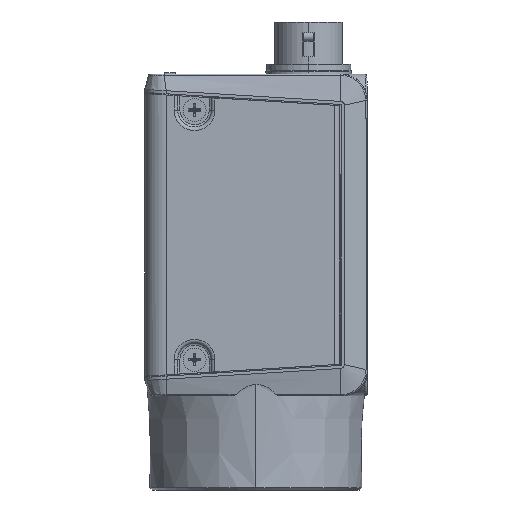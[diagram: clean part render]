
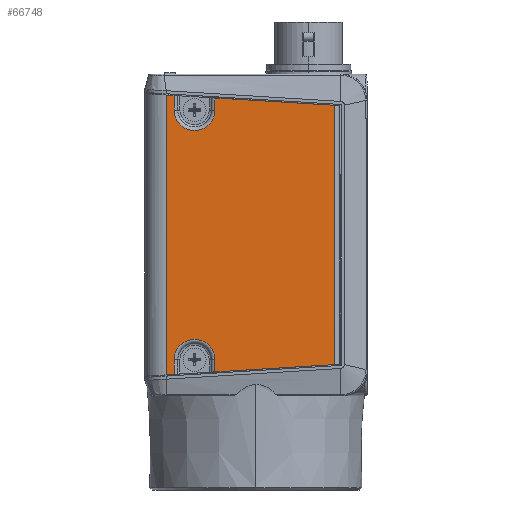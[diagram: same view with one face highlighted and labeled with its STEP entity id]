
A CAD part, left-side view. The second image highlights one B-rep face of the part: STEP entity #66748.
In plain terms, the highlighted planar face has unit normal (-1, 0, 0).
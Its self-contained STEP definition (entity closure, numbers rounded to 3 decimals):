
#9358=DIRECTION('',(0.,0.,1.));
#9359=VECTOR('',#9358,1.906);
#9360=CARTESIAN_POINT('',(-14.5,10.67,46.8));
#9361=LINE('',#9360,#9359);
#9483=DIRECTION('',(0.,0.,-1.));
#9484=VECTOR('',#9483,1.579);
#9485=CARTESIAN_POINT('',(-14.5,5.33,48.379));
#9486=LINE('',#9485,#9484);
#9507=CARTESIAN_POINT('',(-14.5,5.33,48.379));
#9613=CARTESIAN_POINT('',(-14.5,10.67,48.706));
#9795=CARTESIAN_POINT('',(-14.5,5.33,12.621));
#24074=CARTESIAN_POINT('',(-14.5,11.7,
48.769));
#24079=DIRECTION('',(0.,0.,-1.));
#24080=VECTOR('',#24079,36.537);
#24081=CARTESIAN_POINT('',(-14.5,11.7,
48.769));
#24082=LINE('',#24081,#24080);
#24086=CARTESIAN_POINT('',(-14.5,11.7,
12.231));
#24108=CARTESIAN_POINT('',(-14.5,8.,14.2));
#24109=DIRECTION('',(-1.,0.,0.));
#24110=DIRECTION('',(0.,-1.,0.));
#24111=AXIS2_PLACEMENT_3D('',#24108,#24109,#24110);
#24116=CARTESIAN_POINT('',(-14.5,8.,14.2));
#24117=DIRECTION('',(-1.,0.,0.));
#24118=DIRECTION('',(0.,-0.999,0.054));
#24119=AXIS2_PLACEMENT_3D('',#24116,#24117,#24118);
#24124=DIRECTION('',(0.,0.998,-0.061));
#24125=VECTOR('',#24124,1.032);
#24126=CARTESIAN_POINT('',(-14.5,10.67,12.294));
#24127=LINE('',#24126,#24125);
#24131=DIRECTION('',(0.,-0.998,-0.061));
#24132=VECTOR('',#24131,1.032);
#24133=CARTESIAN_POINT('',(-14.5,11.7,
48.769));
#24134=LINE('',#24133,#24132);
#24138=CARTESIAN_POINT('',(-14.5,8.,46.8));
#24139=DIRECTION('',(-1.,0.,0.));
#24140=DIRECTION('',(0.,1.,0.));
#24141=AXIS2_PLACEMENT_3D('',#24138,#24139,#24140);
#24146=CARTESIAN_POINT('',(-14.5,8.,46.8));
#24147=DIRECTION('',(-1.,0.,0.));
#24148=DIRECTION('',(0.,0.999,-0.054));
#24149=AXIS2_PLACEMENT_3D('',#24146,#24147,#24148);
#24154=DIRECTION('',(0.,-0.998,-0.061));
#24155=VECTOR('',#24154,15.622);
#24156=CARTESIAN_POINT('',(-14.5,5.33,48.379));
#24157=LINE('',#24156,#24155);
#24161=DIRECTION('',(0.,0.998,-0.061));
#24162=VECTOR('',#24161,15.622);
#24163=CARTESIAN_POINT('',(-14.5,-10.263,
13.575));
#24164=LINE('',#24163,#24162);
#24168=DIRECTION('',(0.,0.,-1.));
#24169=VECTOR('',#24168,1.579);
#24170=CARTESIAN_POINT('',(-14.5,5.33,14.2));
#24171=LINE('',#24170,#24169);
#24265=CARTESIAN_POINT('',(-14.5,10.67,12.294));
#26731=DIRECTION('',(0.,0.,1.));
#26732=VECTOR('',#26731,1.906);
#26733=CARTESIAN_POINT('',(-14.5,10.67,12.294));
#26734=LINE('',#26733,#26732);
#27834=CARTESIAN_POINT('',(-14.5,-10.263,
13.575));
#27839=DIRECTION('',(0.,0.,1.));
#27840=VECTOR('',#27839,33.851);
#27841=CARTESIAN_POINT('',(-14.5,-10.263,
13.575));
#27842=LINE('',#27841,#27840);
#42006=VERTEX_POINT('',#24086);
#42009=VERTEX_POINT('',#24074);
#42196=VERTEX_POINT('',#9613);
#42227=VERTEX_POINT('',#9507);
#42228=CARTESIAN_POINT('',(-14.5,5.33,46.8));
#42229=VERTEX_POINT('',#42228);
#42230=CARTESIAN_POINT('',(-14.5,-10.263,
47.425));
#42231=VERTEX_POINT('',#42230);
#42251=VERTEX_POINT('',#27834);
#42261=VERTEX_POINT('',#9795);
#42298=VERTEX_POINT('',#24265);
#42299=CARTESIAN_POINT('',(-14.5,10.67,14.2));
#42300=VERTEX_POINT('',#42299);
#42301=CARTESIAN_POINT('',(-14.5,5.33,14.2));
#42302=VERTEX_POINT('',#42301);
#42303=CARTESIAN_POINT('',(-14.5,5.334,14.345));
#42304=VERTEX_POINT('',#42303);
#42305=CARTESIAN_POINT('',(-14.5,10.67,46.8));
#42306=VERTEX_POINT('',#42305);
#42307=CARTESIAN_POINT('',(-14.5,10.666,46.655));
#42308=VERTEX_POINT('',#42307);
#66721=CARTESIAN_POINT('',(-14.5,14.5,11.7));
#66722=DIRECTION('',(-1.,0.,0.));
#66723=DIRECTION('',(0.,0.,-1.));
#66724=AXIS2_PLACEMENT_3D('',#66721,#66722,#66723);
#66725=PLANE('',#66724);
#66727=ORIENTED_EDGE('',*,*,#66726,.F.);
#66729=ORIENTED_EDGE('',*,*,#66728,.T.);
#66731=ORIENTED_EDGE('',*,*,#66730,.T.);
#66733=ORIENTED_EDGE('',*,*,#66732,.F.);
#66735=ORIENTED_EDGE('',*,*,#66734,.T.);
#66736=ORIENTED_EDGE('',*,*,#66713,.F.);
#66737=ORIENTED_EDGE('',*,*,#54186,.T.);
#66738=ORIENTED_EDGE('',*,*,#53941,.F.);
#66739=ORIENTED_EDGE('',*,*,#53964,.T.);
#66740=ORIENTED_EDGE('',*,*,#53962,.T.);
#66741=ORIENTED_EDGE('',*,*,#54028,.F.);
#66742=ORIENTED_EDGE('',*,*,#54066,.T.);
#66744=ORIENTED_EDGE('',*,*,#66743,.F.);
#66745=ORIENTED_EDGE('',*,*,#54325,.T.);
#66746=EDGE_LOOP('',(#66727,#66729,#66731,#66733,#66735,#66736,#66737,#66738,
#66739,#66740,#66741,#66742,#66744,#66745));
#66747=FACE_OUTER_BOUND('',#66746,.F.);
#66748=ADVANCED_FACE('',(#66747),#66725,.T.);
#24112=CIRCLE('',#24111,2.67);
#24120=CIRCLE('',#24119,2.67);
#24142=CIRCLE('',#24141,2.67);
#24150=CIRCLE('',#24149,2.67);
#53941=EDGE_CURVE('',#42306,#42196,#9361,.T.);
#53962=EDGE_CURVE('',#42308,#42229,#24150,.T.);
#53964=EDGE_CURVE('',#42306,#42308,#24142,.T.);
#54028=EDGE_CURVE('',#42227,#42229,#9486,.T.);
#54066=EDGE_CURVE('',#42227,#42231,#24157,.T.);
#54186=EDGE_CURVE('',#42009,#42196,#24134,.T.);
#54325=EDGE_CURVE('',#42251,#42261,#24164,.T.);
#66713=EDGE_CURVE('',#42009,#42006,#24082,.T.);
#66726=EDGE_CURVE('',#42302,#42261,#24171,.T.);
#66728=EDGE_CURVE('',#42302,#42304,#24112,.T.);
#66730=EDGE_CURVE('',#42304,#42300,#24120,.T.);
#66732=EDGE_CURVE('',#42298,#42300,#26734,.T.);
#66734=EDGE_CURVE('',#42298,#42006,#24127,.T.);
#66743=EDGE_CURVE('',#42251,#42231,#27842,.T.);
